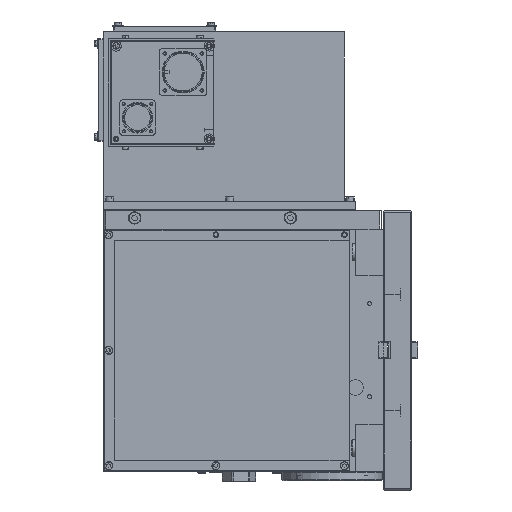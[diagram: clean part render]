
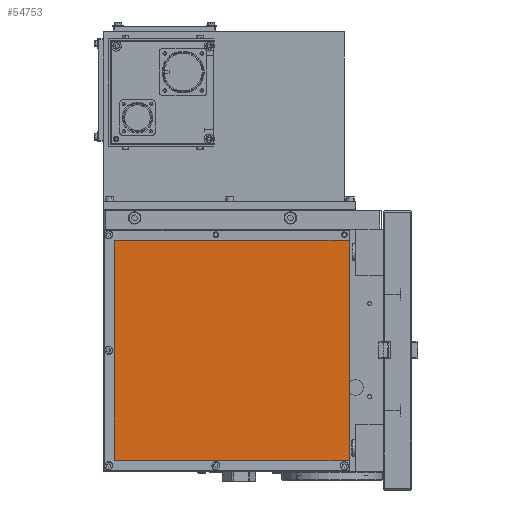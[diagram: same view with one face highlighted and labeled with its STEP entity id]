
A CAD part, left-side view. The second image highlights one B-rep face of the part: STEP entity #54753.
In plain terms, the highlighted planar face has unit normal (-1, 0, 0).
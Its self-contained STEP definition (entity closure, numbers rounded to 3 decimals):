
#1722 = LINE ( 'NONE', #54283, #77974 ) ;
#6166 = CARTESIAN_POINT ( 'NONE',  ( -357.6, -143.008, -99.522 ) ) ;
#7094 = ORIENTED_EDGE ( 'NONE', *, *, #12493, .T. ) ;
#9619 = PLANE ( 'NONE',  #38114 ) ;
#11438 = LINE ( 'NONE', #57689, #21918 ) ;
#12493 = EDGE_CURVE ( 'NONE', #26772, #56254, #11438, .T. ) ;
#15359 = EDGE_LOOP ( 'NONE', ( #46258, #52613, #7094, #29095 ) ) ;
#16591 = DIRECTION ( 'NONE',  ( 0., 1., 0. ) ) ;
#18545 = DIRECTION ( 'NONE',  ( 0., 0., 1. ) ) ;
#20777 = EDGE_CURVE ( 'NONE', #39273, #37198, #1722, .T. ) ;
#20912 = DIRECTION ( 'NONE',  ( -1., 0., 0. ) ) ;
#21327 = FACE_OUTER_BOUND ( 'NONE', #15359, .T. ) ;
#21918 = VECTOR ( 'NONE', #18545, 1000. ) ;
#24767 = CARTESIAN_POINT ( 'NONE',  ( -357.6, 108.992, 136.478 ) ) ;
#26772 = VERTEX_POINT ( 'NONE', #6166 ) ;
#29095 = ORIENTED_EDGE ( 'NONE', *, *, #36458, .T. ) ;
#30894 = DIRECTION ( 'NONE',  ( 0., -1., 0. ) ) ;
#32300 = CARTESIAN_POINT ( 'NONE',  ( -357.6, 108.992, -99.522 ) ) ;
#36458 = EDGE_CURVE ( 'NONE', #56254, #39273, #73735, .T. ) ;
#37198 = VERTEX_POINT ( 'NONE', #32300 ) ;
#38114 = AXIS2_PLACEMENT_3D ( 'NONE', #40499, #20912, #72623 ) ;
#38393 = CARTESIAN_POINT ( 'NONE',  ( -357.6, -143.008, 136.478 ) ) ;
#39273 = VERTEX_POINT ( 'NONE', #24767 ) ;
#40499 = CARTESIAN_POINT ( 'NONE',  ( -357.6, -143.008, -110.522 ) ) ;
#43368 = VECTOR ( 'NONE', #16591, 1000. ) ;
#46258 = ORIENTED_EDGE ( 'NONE', *, *, #20777, .T. ) ;
#47464 = CARTESIAN_POINT ( 'NONE',  ( -357.6, -143.008, 136.478 ) ) ;
#50868 = CARTESIAN_POINT ( 'NONE',  ( -357.6, 108.992, -99.522 ) ) ;
#51731 = VECTOR ( 'NONE', #30894, 1000. ) ;
#52613 = ORIENTED_EDGE ( 'NONE', *, *, #79059, .T. ) ;
#54283 = CARTESIAN_POINT ( 'NONE',  ( -357.6, 108.992, 136.478 ) ) ;
#54753 = ADVANCED_FACE ( 'NONE', ( #21327 ), #9619, .T. ) ;
#56254 = VERTEX_POINT ( 'NONE', #38393 ) ;
#57689 = CARTESIAN_POINT ( 'NONE',  ( -357.6, -143.008, -99.522 ) ) ;
#72623 = DIRECTION ( 'NONE',  ( 0., 0., 1. ) ) ;
#73456 = DIRECTION ( 'NONE',  ( 0., 0., -1. ) ) ;
#73735 = LINE ( 'NONE', #47464, #43368 ) ;
#75530 = LINE ( 'NONE', #50868, #51731 ) ;
#77974 = VECTOR ( 'NONE', #73456, 1000. ) ;
#79059 = EDGE_CURVE ( 'NONE', #37198, #26772, #75530, .T. ) ;
